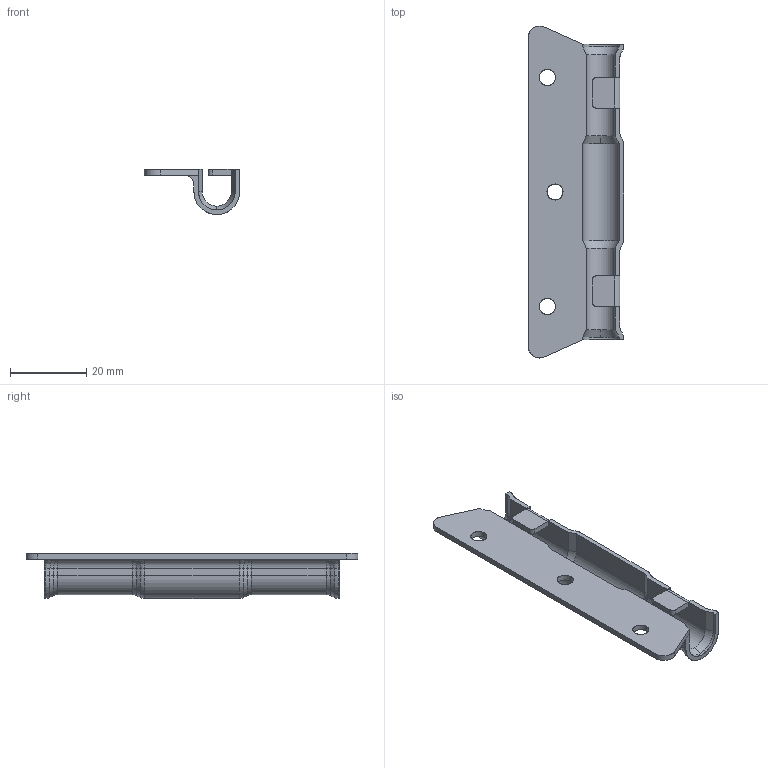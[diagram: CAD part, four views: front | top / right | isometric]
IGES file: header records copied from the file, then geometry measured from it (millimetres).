
Start section: SolidWorks IGES FILE using analytic representation for surfaces
Global section: file name: C:\Documents and Settings\lecoutey\Bureau\PR 326\326.010.00.IGS; native system: SolidWorks 2004 by SolidWorks Corporation; preprocessor: Version 5.3; author: lecoutey; date: 050408.171320; units: millimetre
Bounding box: 25 x 87 x 11.8 mm (x, y, z)
Surface area: 6880.6 mm2 (no closed solid volume)
Topology: 0 solids, 0 shells, 145 faces, 1080 edges, 1076 vertices
Faces by surface type: bspline 80, revolution 65
